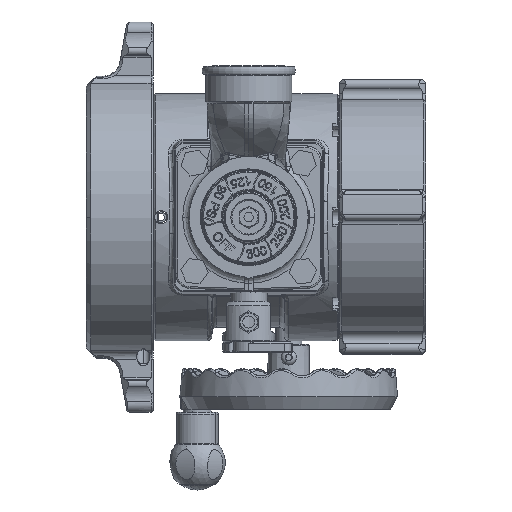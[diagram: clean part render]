
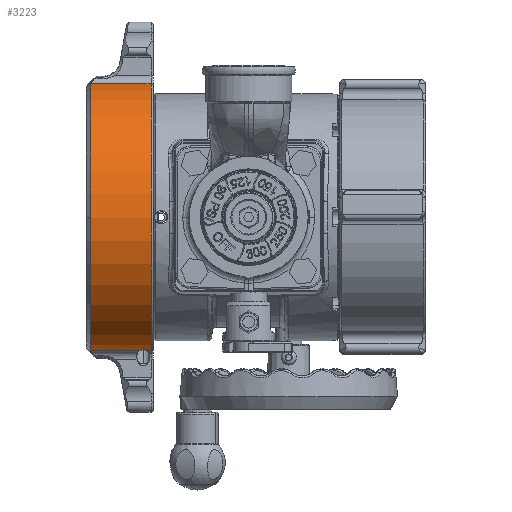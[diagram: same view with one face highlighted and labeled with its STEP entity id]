
A CAD part, front view. The second image highlights one B-rep face of the part: STEP entity #3223.
In plain terms, the highlighted cylindrical face has radius 98.425 mm (diameter 196.85 mm), a partial arc.
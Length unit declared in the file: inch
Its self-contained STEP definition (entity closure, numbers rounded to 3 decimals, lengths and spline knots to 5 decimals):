
#3223 = ADVANCED_FACE ( 'NONE', ( #139129 ), #139133, .T. ) ;
#13604 = VERTEX_POINT ( 'NONE', #153861 ) ;
#13606 = VERTEX_POINT ( 'NONE', #153863 ) ;
#13643 = VERTEX_POINT ( 'NONE', #153895 ) ;
#13682 = VERTEX_POINT ( 'NONE', #153928 ) ;
#13691 = VERTEX_POINT ( 'NONE', #153935 ) ;
#13693 = VERTEX_POINT ( 'NONE', #153937 ) ;
#13695 = VERTEX_POINT ( 'NONE', #153939 ) ;
#13704 = VERTEX_POINT ( 'NONE', #153947 ) ;
#13708 = VERTEX_POINT ( 'NONE', #153950 ) ;
#58223 = EDGE_CURVE ( 'NONE', #13604, #13606, #139616, .T. ) ;
#58328 = EDGE_CURVE ( 'NONE', #13693, #13643, #84609, .T. ) ;
#58342 = EDGE_CURVE ( 'NONE', #13693, #13695, #139658, .T. ) ;
#58345 = EDGE_CURVE ( 'NONE', #13695, #13704, #139660, .T. ) ;
#58347 = EDGE_CURVE ( 'NONE', #13691, #13704, #139665, .T. ) ;
#58349 = EDGE_CURVE ( 'NONE', #13606, #13691, #139663, .T. ) ;
#58352 = EDGE_CURVE ( 'NONE', #13604, #13682, #139668, .T. ) ;
#58354 = EDGE_CURVE ( 'NONE', #13708, #13682, #84627, .T. ) ;
#58356 = EDGE_CURVE ( 'NONE', #13708, #13643, #139666, .T. ) ;
#75407 = AXIS2_PLACEMENT_3D ( 'NONE', #141712, #141714, #141716 ) ;
#75456 = AXIS2_PLACEMENT_3D ( 'NONE', #142371, #142374, #142377 ) ;
#75459 = AXIS2_PLACEMENT_3D ( 'NONE', #142392, #142395, #142398 ) ;
#84609 = B_SPLINE_CURVE_WITH_KNOTS ( 'NONE', 3,
 ( #142141, #142144, #142178, #142180, #142182, #142184, #142185, #142187, #142189, #142191, #142193, #142194, #142196, #142198, #142200, #142202 ),
 .UNSPECIFIED., .F., .F.,
 ( 4, 2, 2, 2, 2, 2, 2, 4 ),
 ( 0., 0.00203, 0.00304, 0.00405, 0.00507, 0.00608, 0.0071, 0.00811 ),
 .UNSPECIFIED. ) ;
#84627 = B_SPLINE_CURVE_WITH_KNOTS ( 'NONE', 3,
 ( #142386, #142389, #142410, #142413, #142416, #142418, #142421, #142424, #142427, #142430, #142433, #142436, #142438, #142441, #142444, #142447 ),
 .UNSPECIFIED., .F., .F.,
 ( 4, 2, 2, 2, 2, 2, 2, 4 ),
 ( 0., 0.00101, 0.00203, 0.00304, 0.00406, 0.00507, 0.00608, 0.00811 ),
 .UNSPECIFIED. ) ;
#114909 = DIRECTION ( 'NONE',  ( 0., -0.003, 1. ) ) ;
#114914 = DIRECTION ( 'NONE',  ( 1., 0., 0. ) ) ;
#114917 = CARTESIAN_POINT ( 'NONE',  ( -4.693, 0., 0. ) ) ;
#130392 = EDGE_LOOP ( 'NONE', ( #134249, #134251, #134253, #134255, #134257, #134259, #134261, #134263, #134265 ) ) ;
#132847 = AXIS2_PLACEMENT_3D ( 'NONE', #114917, #114914, #114909 ) ;
#134249 = ORIENTED_EDGE ( 'NONE', *, *, #58328, .F. ) ;
#134251 = ORIENTED_EDGE ( 'NONE', *, *, #58342, .T. ) ;
#134253 = ORIENTED_EDGE ( 'NONE', *, *, #58345, .T. ) ;
#134255 = ORIENTED_EDGE ( 'NONE', *, *, #58347, .F. ) ;
#134257 = ORIENTED_EDGE ( 'NONE', *, *, #58349, .F. ) ;
#134259 = ORIENTED_EDGE ( 'NONE', *, *, #58223, .F. ) ;
#134261 = ORIENTED_EDGE ( 'NONE', *, *, #58352, .T. ) ;
#134263 = ORIENTED_EDGE ( 'NONE', *, *, #58354, .F. ) ;
#134265 = ORIENTED_EDGE ( 'NONE', *, *, #58356, .T. ) ;
#139129 = FACE_OUTER_BOUND ( 'NONE', #130392, .T. ) ;
#139133 = CYLINDRICAL_SURFACE ( 'NONE', #132847, 3.875 ) ;
#139616 = CIRCLE ( 'NONE', #75407, 3.875 ) ;
#139658 = LINE ( 'NONE', #142355, #139664 ) ;
#139660 = CIRCLE ( 'NONE', #75456, 3.875 ) ;
#139663 = CIRCLE ( 'NONE', #75459, 3.875 ) ;
#139664 = VECTOR ( 'NONE', #142361, 39.37008 ) ;
#139665 = LINE ( 'NONE', #142358, #139667 ) ;
#139666 = LINE ( 'NONE', #142404, #139672 ) ;
#139667 = VECTOR ( 'NONE', #142329, 39.37008 ) ;
#139668 = LINE ( 'NONE', #142380, #139670 ) ;
#139670 = VECTOR ( 'NONE', #142366, 39.37008 ) ;
#139672 = VECTOR ( 'NONE', #142450, 39.37008 ) ;
#141712 = CARTESIAN_POINT ( 'NONE',  ( -4.518, 0., 0. ) ) ;
#141714 = DIRECTION ( 'NONE',  ( -1., 0., 0. ) ) ;
#141716 = DIRECTION ( 'NONE',  ( 0., -1., -0.003 ) ) ;
#142141 = CARTESIAN_POINT ( 'NONE',  ( -2.9074, -0.66878, -3.81685 ) ) ;
#142144 = CARTESIAN_POINT ( 'NONE',  ( -2.91506, -0.69392, -3.81245 ) ) ;
#142178 = CARTESIAN_POINT ( 'NONE',  ( -2.92314, -0.71891, -3.80781 ) ) ;
#142180 = CARTESIAN_POINT ( 'NONE',  ( -2.93533, -0.75631, -3.8005 ) ) ;
#142182 = CARTESIAN_POINT ( 'NONE',  ( -2.9394, -0.76876, -3.798 ) ) ;
#142184 = CARTESIAN_POINT ( 'NONE',  ( -2.94727, -0.79369, -3.79287 ) ) ;
#142185 = CARTESIAN_POINT ( 'NONE',  ( -2.95108, -0.80618, -3.79023 ) ) ;
#142187 = CARTESIAN_POINT ( 'NONE',  ( -2.95783, -0.83134, -3.78479 ) ) ;
#142189 = CARTESIAN_POINT ( 'NONE',  ( -2.96075, -0.84401, -3.78199 ) ) ;
#142191 = CARTESIAN_POINT ( 'NONE',  ( -2.96547, -0.8696, -3.77619 ) ) ;
#142193 = CARTESIAN_POINT ( 'NONE',  ( -2.96727, -0.88252, -3.77319 ) ) ;
#142194 = CARTESIAN_POINT ( 'NONE',  ( -2.96994, -0.90855, -3.76701 ) ) ;
#142196 = CARTESIAN_POINT ( 'NONE',  ( -2.97081, -0.92166, -3.76382 ) ) ;
#142198 = CARTESIAN_POINT ( 'NONE',  ( -2.97242, -0.94784, -3.75731 ) ) ;
#142200 = CARTESIAN_POINT ( 'NONE',  ( -2.97316, -0.96092, -3.75399 ) ) ;
#142202 = CARTESIAN_POINT ( 'NONE',  ( -2.9744, -0.97395, -3.75061 ) ) ;
#142329 = DIRECTION ( 'NONE',  ( 1., 0., 0. ) ) ;
#142355 = CARTESIAN_POINT ( 'NONE',  ( -4.693, -0.66878, -3.81685 ) ) ;
#142358 = CARTESIAN_POINT ( 'NONE',  ( -4.693, -0.69334, 3.81247 ) ) ;
#142361 = DIRECTION ( 'NONE',  ( 1., 0., 0. ) ) ;
#142366 = DIRECTION ( 'NONE',  ( 1., 0., 0. ) ) ;
#142371 = CARTESIAN_POINT ( 'NONE',  ( -2.7925, 0., 0. ) ) ;
#142374 = DIRECTION ( 'NONE',  ( -1., 0., 0. ) ) ;
#142377 = DIRECTION ( 'NONE',  ( 0., 0.003, -1. ) ) ;
#142380 = CARTESIAN_POINT ( 'NONE',  ( -4.693, -0.66878, -3.81685 ) ) ;
#142386 = CARTESIAN_POINT ( 'NONE',  ( -3.0456, -0.97395, -3.75061 ) ) ;
#142389 = CARTESIAN_POINT ( 'NONE',  ( -3.04683, -0.96106, -3.75395 ) ) ;
#142392 = CARTESIAN_POINT ( 'NONE',  ( -4.518, 0., 0. ) ) ;
#142395 = DIRECTION ( 'NONE',  ( -1., 0., 0. ) ) ;
#142398 = DIRECTION ( 'NONE',  ( 0., -1., -0.003 ) ) ;
#142404 = CARTESIAN_POINT ( 'NONE',  ( -4.693, -0.97395, -3.75061 ) ) ;
#142410 = CARTESIAN_POINT ( 'NONE',  ( -3.04757, -0.94805, -3.75726 ) ) ;
#142413 = CARTESIAN_POINT ( 'NONE',  ( -3.04916, -0.92204, -3.76373 ) ) ;
#142416 = CARTESIAN_POINT ( 'NONE',  ( -3.05003, -0.90902, -3.76689 ) ) ;
#142418 = CARTESIAN_POINT ( 'NONE',  ( -3.05266, -0.88314, -3.77304 ) ) ;
#142421 = CARTESIAN_POINT ( 'NONE',  ( -3.05443, -0.87027, -3.77603 ) ) ;
#142424 = CARTESIAN_POINT ( 'NONE',  ( -3.0591, -0.84473, -3.78183 ) ) ;
#142427 = CARTESIAN_POINT ( 'NONE',  ( -3.062, -0.83204, -3.78464 ) ) ;
#142430 = CARTESIAN_POINT ( 'NONE',  ( -3.06872, -0.80683, -3.79009 ) ) ;
#142433 = CARTESIAN_POINT ( 'NONE',  ( -3.07254, -0.79429, -3.79274 ) ) ;
#142436 = CARTESIAN_POINT ( 'NONE',  ( -3.08044, -0.76925, -3.7979 ) ) ;
#142438 = CARTESIAN_POINT ( 'NONE',  ( -3.08453, -0.75674, -3.80041 ) ) ;
#142441 = CARTESIAN_POINT ( 'NONE',  ( -3.09678, -0.71917, -3.80777 ) ) ;
#142444 = CARTESIAN_POINT ( 'NONE',  ( -3.1049, -0.69406, -3.81242 ) ) ;
#142447 = CARTESIAN_POINT ( 'NONE',  ( -3.1126, -0.66878, -3.81685 ) ) ;
#142450 = DIRECTION ( 'NONE',  ( 1., 0., 0. ) ) ;
#153861 = CARTESIAN_POINT ( 'NONE',  ( -4.518, -0.66878, -3.81685 ) ) ;
#153863 = CARTESIAN_POINT ( 'NONE',  ( -4.518, -3.87498, -0.01247 ) ) ;
#153895 = CARTESIAN_POINT ( 'NONE',  ( -2.9744, -0.97395, -3.75061 ) ) ;
#153928 = CARTESIAN_POINT ( 'NONE',  ( -3.1126, -0.66878, -3.81685 ) ) ;
#153935 = CARTESIAN_POINT ( 'NONE',  ( -4.518, -0.69334, 3.81247 ) ) ;
#153937 = CARTESIAN_POINT ( 'NONE',  ( -2.9074, -0.66878, -3.81685 ) ) ;
#153939 = CARTESIAN_POINT ( 'NONE',  ( -2.7925, -0.66878, -3.81685 ) ) ;
#153947 = CARTESIAN_POINT ( 'NONE',  ( -2.7925, -0.69334, 3.81247 ) ) ;
#153950 = CARTESIAN_POINT ( 'NONE',  ( -3.0456, -0.97395, -3.75061 ) ) ;
